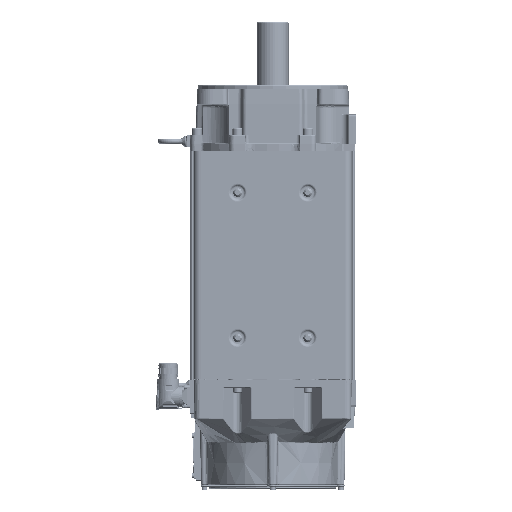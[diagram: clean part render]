
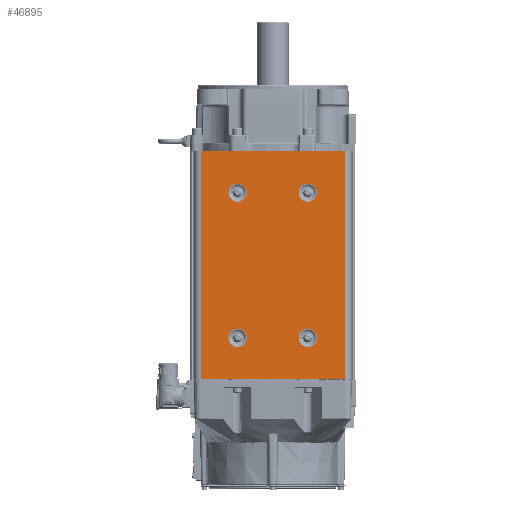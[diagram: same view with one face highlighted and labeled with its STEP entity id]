
A CAD part, left-side view. The second image highlights one B-rep face of the part: STEP entity #46895.
In plain terms, the highlighted planar face has unit normal (-1, 0, 0).
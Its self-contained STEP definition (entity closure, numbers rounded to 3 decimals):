
#45659=DIRECTION('',(0.,0.,-1.));
#45660=VECTOR('',#45659,273.);
#45661=CARTESIAN_POINT('',(0.,-86.25,136.5));
#45662=LINE('',#45661,#45660);
#45753=DIRECTION('',(0.,1.,0.));
#45754=VECTOR('',#45753,172.5);
#45755=CARTESIAN_POINT('',(0.,-86.25,136.5));
#45756=LINE('',#45755,#45754);
#45765=DIRECTION('',(0.,0.,-1.));
#45766=VECTOR('',#45765,273.);
#45767=CARTESIAN_POINT('',(0.,86.25,136.5));
#45768=LINE('',#45767,#45766);
#45769=CARTESIAN_POINT('',(0.,-42.,87.));
#45770=DIRECTION('',(-1.,0.,0.));
#45771=DIRECTION('',(0.,0.,1.));
#45772=AXIS2_PLACEMENT_3D('',#45769,#45770,#45771);
#45774=CARTESIAN_POINT('',(0.,-42.,87.));
#45775=DIRECTION('',(-1.,0.,0.));
#45776=DIRECTION('',(0.,0.,-1.));
#45777=AXIS2_PLACEMENT_3D('',#45774,#45775,#45776);
#45779=CARTESIAN_POINT('',(0.,-42.,-87.));
#45780=DIRECTION('',(-1.,0.,0.));
#45781=DIRECTION('',(0.,0.,1.));
#45782=AXIS2_PLACEMENT_3D('',#45779,#45780,#45781);
#45784=CARTESIAN_POINT('',(0.,-42.,-87.));
#45785=DIRECTION('',(-1.,0.,0.));
#45786=DIRECTION('',(0.,0.,-1.));
#45787=AXIS2_PLACEMENT_3D('',#45784,#45785,#45786);
#45789=CARTESIAN_POINT('',(0.,42.,87.));
#45790=DIRECTION('',(-1.,0.,0.));
#45791=DIRECTION('',(0.,0.,1.));
#45792=AXIS2_PLACEMENT_3D('',#45789,#45790,#45791);
#45794=CARTESIAN_POINT('',(0.,42.,87.));
#45795=DIRECTION('',(-1.,0.,0.));
#45796=DIRECTION('',(0.,0.,-1.));
#45797=AXIS2_PLACEMENT_3D('',#45794,#45795,#45796);
#45799=CARTESIAN_POINT('',(0.,42.,-87.));
#45800=DIRECTION('',(-1.,0.,0.));
#45801=DIRECTION('',(0.,0.,1.));
#45802=AXIS2_PLACEMENT_3D('',#45799,#45800,#45801);
#45804=CARTESIAN_POINT('',(0.,42.,-87.));
#45805=DIRECTION('',(-1.,0.,0.));
#45806=DIRECTION('',(0.,0.,-1.));
#45807=AXIS2_PLACEMENT_3D('',#45804,#45805,#45806);
#45809=DIRECTION('',(0.,1.,0.));
#45810=VECTOR('',#45809,172.5);
#45811=CARTESIAN_POINT('',(0.,-86.25,-136.5));
#45812=LINE('',#45811,#45810);
#46473=CARTESIAN_POINT('',(0.,-86.25,136.5));
#46474=CARTESIAN_POINT('',(0.,86.25,136.5));
#46475=VERTEX_POINT('',#46473);
#46476=VERTEX_POINT('',#46474);
#46485=CARTESIAN_POINT('',(0.,-86.25,-136.5));
#46486=CARTESIAN_POINT('',(0.,86.25,-136.5));
#46487=VERTEX_POINT('',#46485);
#46488=VERTEX_POINT('',#46486);
#46529=CARTESIAN_POINT('',(0.,-42.,97.985));
#46530=CARTESIAN_POINT('',(0.,-42.,76.015));
#46531=VERTEX_POINT('',#46529);
#46532=VERTEX_POINT('',#46530);
#46569=CARTESIAN_POINT('',(0.,-42.,-76.015));
#46570=CARTESIAN_POINT('',(0.,-42.,-97.985));
#46571=VERTEX_POINT('',#46569);
#46572=VERTEX_POINT('',#46570);
#46609=CARTESIAN_POINT('',(0.,42.,97.985));
#46610=CARTESIAN_POINT('',(0.,42.,76.015));
#46611=VERTEX_POINT('',#46609);
#46612=VERTEX_POINT('',#46610);
#46649=CARTESIAN_POINT('',(0.,42.,-76.015));
#46650=CARTESIAN_POINT('',(0.,42.,-97.985));
#46651=VERTEX_POINT('',#46649);
#46652=VERTEX_POINT('',#46650);
#46858=CARTESIAN_POINT('',(0.,86.25,136.5));
#46859=DIRECTION('',(-1.,0.,0.));
#46860=DIRECTION('',(0.,-1.,0.));
#46861=AXIS2_PLACEMENT_3D('',#46858,#46859,#46860);
#46862=PLANE('',#46861);
#46863=ORIENTED_EDGE('',*,*,#46849,.F.);
#46864=ORIENTED_EDGE('',*,*,#46732,.T.);
#46866=ORIENTED_EDGE('',*,*,#46865,.T.);
#46868=ORIENTED_EDGE('',*,*,#46867,.F.);
#46869=EDGE_LOOP('',(#46863,#46864,#46866,#46868));
#46870=FACE_OUTER_BOUND('',#46869,.F.);
#46872=ORIENTED_EDGE('',*,*,#46871,.T.);
#46874=ORIENTED_EDGE('',*,*,#46873,.T.);
#46875=EDGE_LOOP('',(#46872,#46874));
#46876=FACE_BOUND('',#46875,.F.);
#46878=ORIENTED_EDGE('',*,*,#46877,.T.);
#46880=ORIENTED_EDGE('',*,*,#46879,.T.);
#46881=EDGE_LOOP('',(#46878,#46880));
#46882=FACE_BOUND('',#46881,.F.);
#46884=ORIENTED_EDGE('',*,*,#46883,.T.);
#46886=ORIENTED_EDGE('',*,*,#46885,.T.);
#46887=EDGE_LOOP('',(#46884,#46886));
#46888=FACE_BOUND('',#46887,.F.);
#46890=ORIENTED_EDGE('',*,*,#46889,.T.);
#46892=ORIENTED_EDGE('',*,*,#46891,.T.);
#46893=EDGE_LOOP('',(#46890,#46892));
#46894=FACE_BOUND('',#46893,.F.);
#46895=ADVANCED_FACE('',(#46870,#46876,#46882,#46888,#46894),#46862,.T.);
#45773=CIRCLE('',#45772,10.985);
#45778=CIRCLE('',#45777,10.985);
#45783=CIRCLE('',#45782,10.985);
#45788=CIRCLE('',#45787,10.985);
#45793=CIRCLE('',#45792,10.985);
#45798=CIRCLE('',#45797,10.985);
#45803=CIRCLE('',#45802,10.985);
#45808=CIRCLE('',#45807,10.985);
#46732=EDGE_CURVE('',#46475,#46487,#45662,.T.);
#46849=EDGE_CURVE('',#46475,#46476,#45756,.T.);
#46865=EDGE_CURVE('',#46487,#46488,#45812,.T.);
#46867=EDGE_CURVE('',#46476,#46488,#45768,.T.);
#46871=EDGE_CURVE('',#46531,#46532,#45773,.T.);
#46873=EDGE_CURVE('',#46532,#46531,#45778,.T.);
#46877=EDGE_CURVE('',#46571,#46572,#45783,.T.);
#46879=EDGE_CURVE('',#46572,#46571,#45788,.T.);
#46883=EDGE_CURVE('',#46611,#46612,#45793,.T.);
#46885=EDGE_CURVE('',#46612,#46611,#45798,.T.);
#46889=EDGE_CURVE('',#46651,#46652,#45803,.T.);
#46891=EDGE_CURVE('',#46652,#46651,#45808,.T.);
